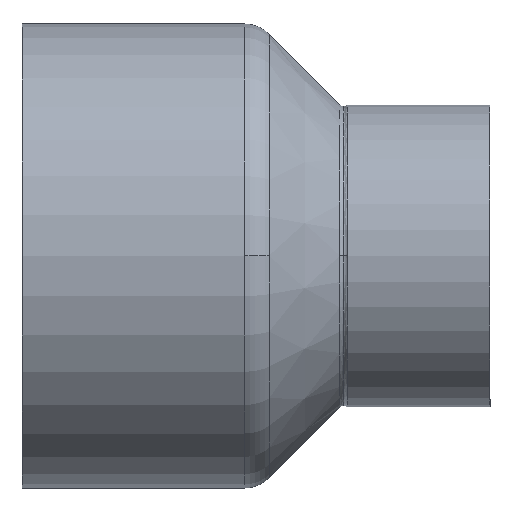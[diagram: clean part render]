
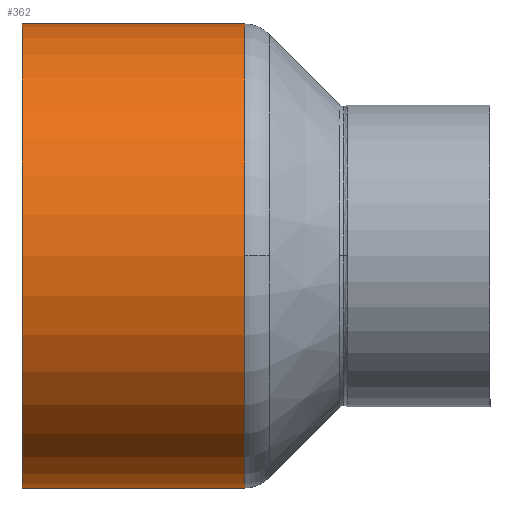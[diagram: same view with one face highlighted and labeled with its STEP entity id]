
A CAD part, top view. The second image highlights one B-rep face of the part: STEP entity #362.
In plain terms, the highlighted cylindrical face has radius 54 mm (diameter 108 mm), a partial arc.
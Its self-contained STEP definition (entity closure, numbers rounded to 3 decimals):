
#312=CARTESIAN_POINT('',(25.915,0.0,0.0));
#313=DIRECTION('',(1.0,0.0,0.0));
#314=DIRECTION('',(0.0,1.0,0.0));
#315=AXIS2_PLACEMENT_3D('',#312,#313,#314);
#316=CYLINDRICAL_SURFACE('',#315,54.0);
#317=CARTESIAN_POINT('',(0.0,54.0,0.0));
#318=VERTEX_POINT('',#317);
#319=CARTESIAN_POINT('',(51.83,54.0,0.0));
#320=VERTEX_POINT('',#319);
#321=CARTESIAN_POINT('',(0.0,54.0,0.0));
#322=DIRECTION('',(1.0,0.0,0.0));
#323=VECTOR('',#322,51.83);
#324=LINE('',#321,#323);
#325=EDGE_CURVE('',#318,#320,#324,.T.);
#326=ORIENTED_EDGE('',*,*,#325,.F.);
#327=CARTESIAN_POINT('',(0.0,-54.0,0.));
#328=VERTEX_POINT('',#327);
#329=CARTESIAN_POINT('',(0.0,0.0,0.0));
#330=DIRECTION('',(1.0,0.0,0.0));
#331=DIRECTION('',(0.0,1.0,0.0));
#332=AXIS2_PLACEMENT_3D('',#329,#330,#331);
#333=CIRCLE('',#332,54.0);
#334=EDGE_CURVE('',#318,#328,#333,.T.);
#335=ORIENTED_EDGE('',*,*,#334,.T.);
#336=CARTESIAN_POINT('',(51.83,-54.0,0.));
#337=VERTEX_POINT('',#336);
#338=CARTESIAN_POINT('',(51.83,-54.0,0.));
#339=DIRECTION('',(-1.0,0.0,0.0));
#340=VECTOR('',#339,51.83);
#341=LINE('',#338,#340);
#342=EDGE_CURVE('',#337,#328,#341,.T.);
#343=ORIENTED_EDGE('',*,*,#342,.F.);
#344=CARTESIAN_POINT('',(51.83,0.,54.0));
#345=VERTEX_POINT('',#344);
#346=CARTESIAN_POINT('',(51.83,0.0,0.0));
#347=DIRECTION('',(1.0,0.0,0.0));
#348=DIRECTION('',(0.0,1.0,0.0));
#349=AXIS2_PLACEMENT_3D('',#346,#347,#348);
#350=CIRCLE('',#349,54.0);
#351=EDGE_CURVE('',#345,#337,#350,.T.);
#352=ORIENTED_EDGE('',*,*,#351,.F.);
#353=CARTESIAN_POINT('',(51.83,0.0,0.0));
#354=DIRECTION('',(1.0,0.0,0.0));
#355=DIRECTION('',(0.0,1.0,0.0));
#356=AXIS2_PLACEMENT_3D('',#353,#354,#355);
#357=CIRCLE('',#356,54.0);
#358=EDGE_CURVE('',#320,#345,#357,.T.);
#359=ORIENTED_EDGE('',*,*,#358,.F.);
#360=EDGE_LOOP('',(#326,#335,#343,#352,#359));
#361=FACE_OUTER_BOUND('',#360,.T.);
#362=ADVANCED_FACE('',(#361),#316,.T.);
